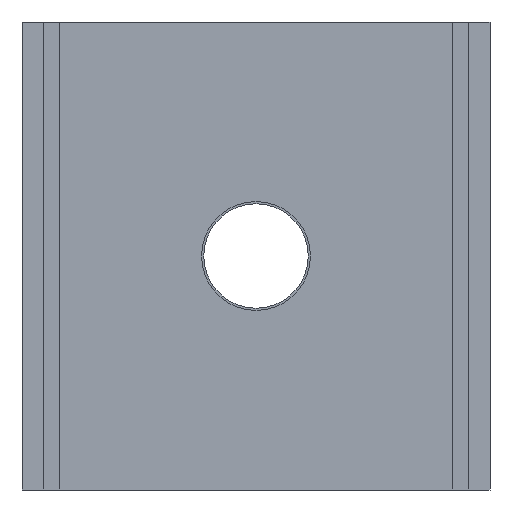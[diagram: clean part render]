
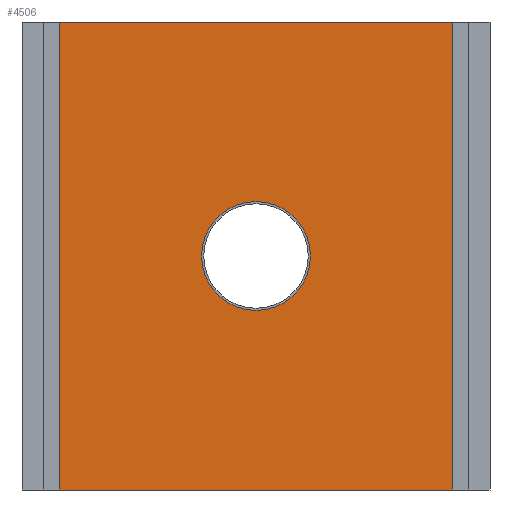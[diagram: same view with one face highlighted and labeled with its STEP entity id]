
A CAD part, front view. The second image highlights one B-rep face of the part: STEP entity #4506.
In plain terms, the highlighted planar face has unit normal (0, -1, 0).
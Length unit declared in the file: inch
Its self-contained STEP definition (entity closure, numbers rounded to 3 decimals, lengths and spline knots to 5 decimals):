
#3968=CARTESIAN_POINT('',(7.22441,-5.82677,8.60236));
#3969=VERTEX_POINT('',#3968);
#3970=CARTESIAN_POINT('',(-7.22441,-5.82677,8.60236));
#3971=VERTEX_POINT('',#3970);
#3972=CARTESIAN_POINT('',(7.22441,-5.82677,8.60236));
#3973=DIRECTION('',(-1.0,0.0,0.0));
#3974=VECTOR('',#3973,14.44882);
#3975=LINE('',#3972,#3974);
#3976=EDGE_CURVE('',#3969,#3971,#3975,.T.);
#4465=CARTESIAN_POINT('',(0.0,-5.82677,0.0));
#4466=DIRECTION('',(0.0,-1.0,0.0));
#4467=DIRECTION('',(0.0,0.0,-1.0));
#4468=AXIS2_PLACEMENT_3D('',#4465,#4466,#4467);
#4469=PLANE('',#4468);
#4470=ORIENTED_EDGE('',*,*,#3976,.T.);
#4471=CARTESIAN_POINT('',(-7.22441,-5.82677,-8.60236));
#4472=VERTEX_POINT('',#4471);
#4473=CARTESIAN_POINT('',(-7.22441,-5.82677,-8.60236));
#4474=DIRECTION('',(0.0,0.0,1.0));
#4475=VECTOR('',#4474,17.20472);
#4476=LINE('',#4473,#4475);
#4477=EDGE_CURVE('',#4472,#3971,#4476,.T.);
#4478=ORIENTED_EDGE('',*,*,#4477,.F.);
#4479=CARTESIAN_POINT('',(7.22441,-5.82677,-8.60236));
#4480=VERTEX_POINT('',#4479);
#4481=CARTESIAN_POINT('',(-7.22441,-5.82677,-8.60236));
#4482=DIRECTION('',(1.0,0.0,0.0));
#4483=VECTOR('',#4482,14.44882);
#4484=LINE('',#4481,#4483);
#4485=EDGE_CURVE('',#4472,#4480,#4484,.T.);
#4486=ORIENTED_EDGE('',*,*,#4485,.T.);
#4487=CARTESIAN_POINT('',(7.22441,-5.82677,-8.60236));
#4488=DIRECTION('',(0.0,0.0,1.0));
#4489=VECTOR('',#4488,17.20472);
#4490=LINE('',#4487,#4489);
#4491=EDGE_CURVE('',#4480,#3969,#4490,.T.);
#4492=ORIENTED_EDGE('',*,*,#4491,.T.);
#4493=EDGE_LOOP('',(#4470,#4478,#4486,#4492));
#4494=FACE_OUTER_BOUND('',#4493,.T.);
#4495=CARTESIAN_POINT('',(2.,-5.82677,0.0));
#4496=VERTEX_POINT('',#4495);
#4497=CARTESIAN_POINT('',(0.0,-5.82677,0.0));
#4498=DIRECTION('',(0.0,-1.0,0.0));
#4499=DIRECTION('',(1.0,0.0,0.0));
#4500=AXIS2_PLACEMENT_3D('',#4497,#4498,#4499);
#4501=CIRCLE('',#4500,2.);
#4502=EDGE_CURVE('',#4496,#4496,#4501,.T.);
#4503=ORIENTED_EDGE('',*,*,#4502,.F.);
#4504=EDGE_LOOP('',(#4503));
#4505=FACE_BOUND('',#4504,.T.);
#4506=ADVANCED_FACE('',(#4494,#4505),#4469,.T.);
